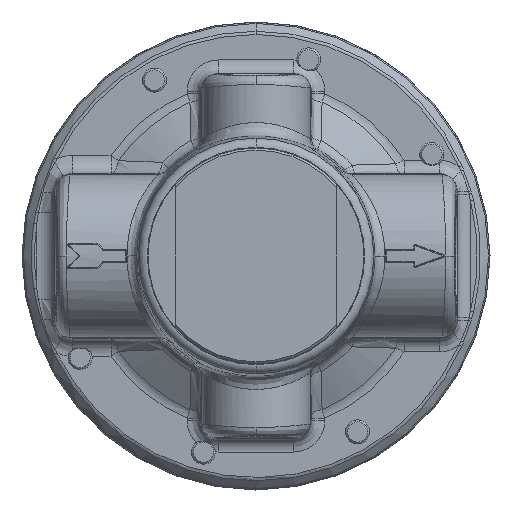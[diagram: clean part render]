
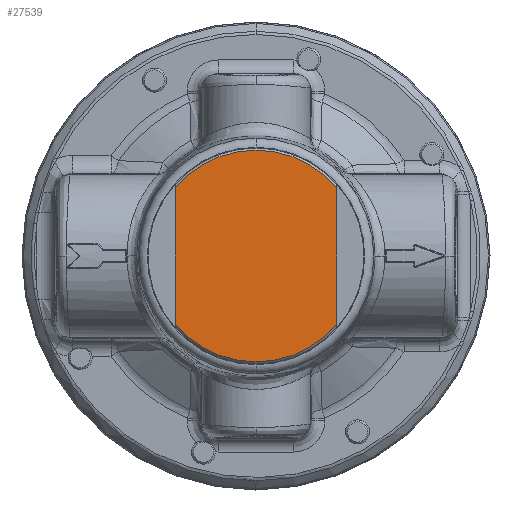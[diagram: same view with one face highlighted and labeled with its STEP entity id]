
A CAD part, front view. The second image highlights one B-rep face of the part: STEP entity #27539.
In plain terms, the highlighted planar face has unit normal (0, -1, 0).
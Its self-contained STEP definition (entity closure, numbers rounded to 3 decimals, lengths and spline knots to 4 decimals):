
#388 = LINE ( 'NONE', #393, #5590 ) ;
#389 = LINE ( 'NONE', #394, #5586 ) ;
#393 = CARTESIAN_POINT ( 'NONE',  ( 0.5587, -1.906, 0. ) ) ;
#394 = CARTESIAN_POINT ( 'NONE',  ( -0.5587, -1.906, 0. ) ) ;
#395 = DIRECTION ( 'NONE',  ( 0., 0., 1. ) ) ;
#396 = CARTESIAN_POINT ( 'NONE',  ( 0., -1.906, 0. ) ) ;
#397 = DIRECTION ( 'NONE',  ( 0., -1., 0. ) ) ;
#398 = DIRECTION ( 'NONE',  ( 1., 0., 0. ) ) ;
#399 = DIRECTION ( 'NONE',  ( 0., 0., 1. ) ) ;
#400 = CARTESIAN_POINT ( 'NONE',  ( 0., -1.906, 0. ) ) ;
#401 = DIRECTION ( 'NONE',  ( 0., -1., 0. ) ) ;
#402 = DIRECTION ( 'NONE',  ( 1., 0., 0. ) ) ;
#1407 = VERTEX_POINT ( 'NONE', #16037 ) ;
#1713 = VERTEX_POINT ( 'NONE', #22882 ) ;
#1787 = VERTEX_POINT ( 'NONE', #23016 ) ;
#1931 = VERTEX_POINT ( 'NONE', #23276 ) ;
#5271 = AXIS2_PLACEMENT_3D ( 'NONE', #37554, #37560, #37561 ) ;
#5586 = VECTOR ( 'NONE', #395, 39.3701 ) ;
#5588 = CIRCLE ( 'NONE', #5592, 0.7325 ) ;
#5590 = VECTOR ( 'NONE', #399, 39.3701 ) ;
#5592 = AXIS2_PLACEMENT_3D ( 'NONE', #396, #397, #398 ) ;
#5593 = CIRCLE ( 'NONE', #5595, 0.7325 ) ;
#5595 = AXIS2_PLACEMENT_3D ( 'NONE', #400, #401, #402 ) ;
#8863 = EDGE_LOOP ( 'NONE', ( #28791, #28792, #28793, #28794 ) ) ;
#16037 = CARTESIAN_POINT ( 'NONE',  ( -0.5587, -1.906, 0.4737 ) ) ;
#22882 = CARTESIAN_POINT ( 'NONE',  ( -0.5587, -1.906, -0.4737 ) ) ;
#23016 = CARTESIAN_POINT ( 'NONE',  ( 0.5587, -1.906, -0.4737 ) ) ;
#23276 = CARTESIAN_POINT ( 'NONE',  ( 0.5587, -1.906, 0.4737 ) ) ;
#27539 = ADVANCED_FACE ( 'NONE', ( #37556 ), #37557, .T. ) ;
#27810 = EDGE_CURVE ( 'NONE', #1713, #1407, #389, .T. ) ;
#27811 = EDGE_CURVE ( 'NONE', #1713, #1787, #5588, .T. ) ;
#27812 = EDGE_CURVE ( 'NONE', #1787, #1931, #388, .T. ) ;
#27813 = EDGE_CURVE ( 'NONE', #1931, #1407, #5593, .T. ) ;
#28791 = ORIENTED_EDGE ( 'NONE', *, *, #27810, .F. ) ;
#28792 = ORIENTED_EDGE ( 'NONE', *, *, #27811, .T. ) ;
#28793 = ORIENTED_EDGE ( 'NONE', *, *, #27812, .T. ) ;
#28794 = ORIENTED_EDGE ( 'NONE', *, *, #27813, .T. ) ;
#37554 = CARTESIAN_POINT ( 'NONE',  ( 0., -1.906, 0. ) ) ;
#37556 = FACE_OUTER_BOUND ( 'NONE', #8863, .T. ) ;
#37557 = PLANE ( 'NONE',  #5271 ) ;
#37560 = DIRECTION ( 'NONE',  ( 0., -1., 0. ) ) ;
#37561 = DIRECTION ( 'NONE',  ( 1., 0., 0. ) ) ;
